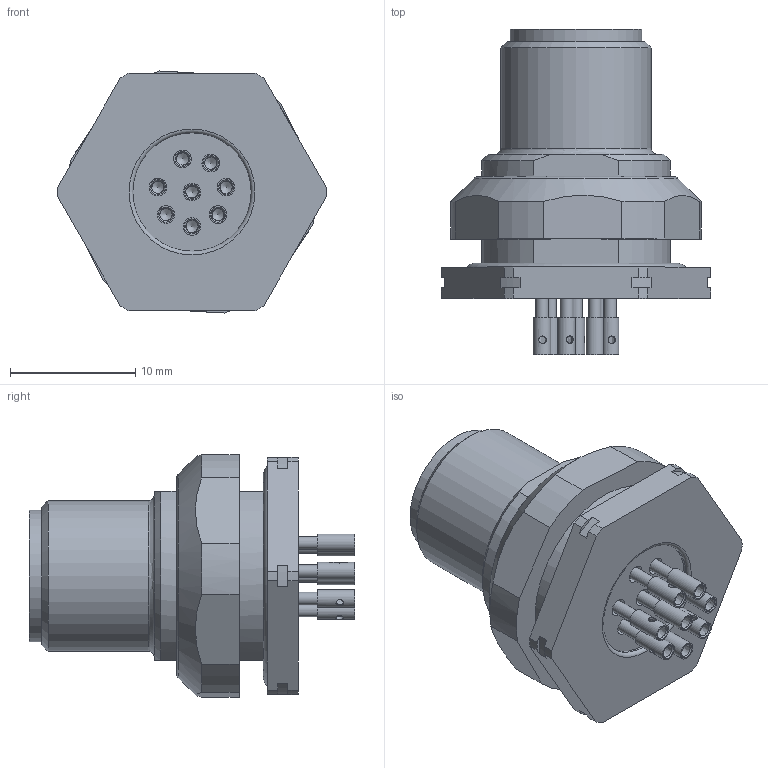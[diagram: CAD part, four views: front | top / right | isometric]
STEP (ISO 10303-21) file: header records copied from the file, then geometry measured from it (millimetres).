
FILE_DESCRIPTION((''),'2;1');
FILE_NAME('C:\TurckZip\FSFDL_84.stp','2010-04-01T16:10:30',('IKOROL'),(''),'Autodesk Inventor 2009','Autodesk Inventor 2009','');
FILE_SCHEMA(('CONFIG_CONTROL_DESIGN'));
Length unit declared in the file: millimetre
Products named in the file (1): FSFDL 84
Bounding box: 21.5 x 26 x 19.33 mm (x, y, z)
Volume: 3127.5 mm3; surface area: 4241.1 mm2
Topology: 1 solids, 10 shells, 313 faces, 792 edges, 517 vertices
Faces by surface type: cylinder 121, plane 93, bspline 52, cone 35, sphere 8, torus 4
Full cylindrical faces by diameter (mm): 0.6 x8, 0.8 x8, 1 x16, 1.2 x8, 1.3 x8, 1.4 x16, 8 x1, 8.3 x1, 9 x1, 9.45 x2, 9.6 x1, 9.9 x1, 10 x1, 10.4 x1, 10.5 x1, 12 x1, 15.8 x1
Entity records: 9413 total; most frequent: CARTESIAN_POINT 2689, DIRECTION 1342, ORIENTED_EDGE 1062, AXIS2_PLACEMENT_3D 589, EDGE_LOOP 563, EDGE_CURVE 531, VERTEX_POINT 436, CIRCLE 327
